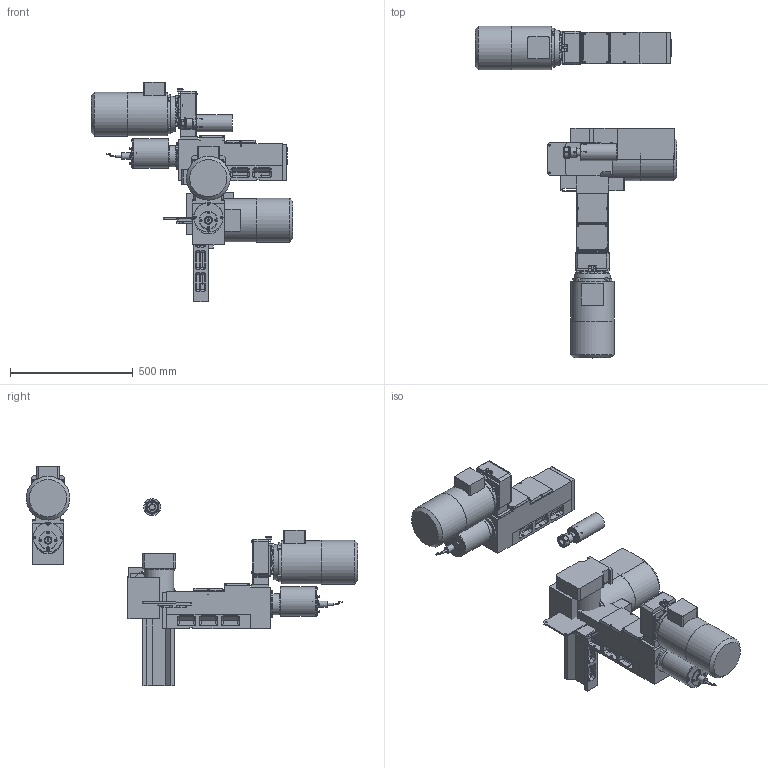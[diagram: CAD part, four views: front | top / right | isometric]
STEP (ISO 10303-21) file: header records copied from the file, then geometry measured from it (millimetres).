
FILE_DESCRIPTION( ( 'STEP AP203' ), '1' );
FILE_NAME( 'C:/Documents and Settings/Saverio/Desktop/disegni ironcad/unità serie 2/M216 (ex M220)/M 216_A03_P.stp', '2014-03-25T09:42:13', ( ' ' ), ( ' ' ), 'XStep 1.0', ' ', ' ' );
FILE_SCHEMA( ( 'CONFIG_CONTROL_DESIGN' ) );
Length unit declared in the file: metre
Products named in the file (49): Assem1; Assem2; Assem3; 1; 2; 3; 4; 5; 6; 7; 8; 9; 10; 11; 12; 13; 14; 15; 16; 17; 18; 19; 20; 21; 22; 23; 24; 25; 26; 27; 28; 29; 30; 31; 32; 33; 34; 35; 36; 37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
Bounding box: 823.57 x 1353.73 x 894.21 mm (x, y, z)
Volume: 56459744.6 mm3; surface area: 3969894.9 mm2
Topology: 138 solids, 138 shells, 3282 faces, 7479 edges, 4560 vertices
Faces by surface type: plane 1752, cylinder 837, cone 459, bspline 126, sphere 60, torus 48
Full cylindrical faces by diameter (mm): 5 x66, 5.25 x12, 5.5 x33, 6.5 x18, 6.637 x15, 6.647 x12, 6.75 x6, 7 x3, 8 x3, 8.385 x3, 8.5 x48, 8.75 x18, 18 x9, 20 x3, 23 x3, 24 x3, 26 x3, 27 x3, 30 x6, 31.2 x3, 32 x3, 38.5 x3, 40 x3, 50 x3, 52 x3, 53 x3, 54 x6, 70 x9, 74 x6, 76 x3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
Entity records: 33634 total; most frequent: CARTESIAN_POINT 8542, DIRECTION 4771, ORIENTED_EDGE 4246, EDGE_CURVE 2123, AXIS2_PLACEMENT_3D 1785, EDGE_LOOP 1499, VERTEX_POINT 1461, FACE_OUTER_BOUND 1229
